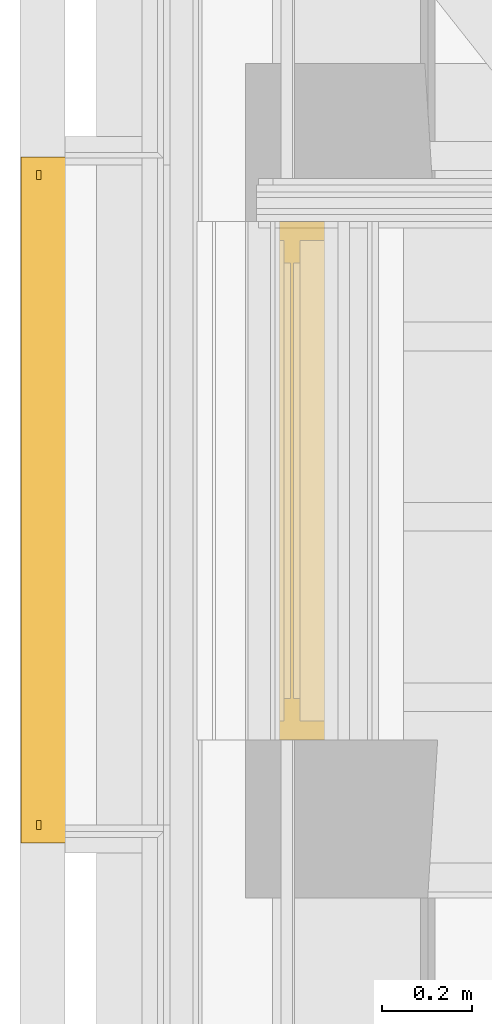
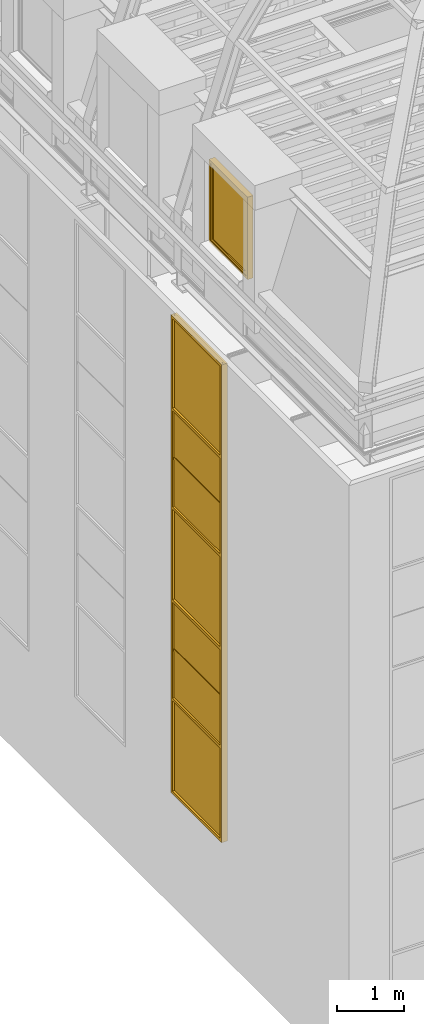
# One storey, part 110 of 183: 1 curtain wall, 1 window.
"""IFC2X3 building model written with IfcOpenShell, lengths in metres."""

from ifc_helpers import new_model, entity, si_unit, converted_unit, derived_unit, money_unit, direction, frame, origin_with_axes, place, context, subcontext, project, spatial, faceted_brep, material, type_object, element, save


model = new_model("IFC2X3")

# Units and contexts
model_context = context("Model", 3, precision=1e-05, world=origin_with_axes(), true_north=direction((0.0, 1.0)))
body_context = subcontext(model_context, "Body", "Model", "MODEL_VIEW", scale=1.0)
ifc_project = project(units=[si_unit("LENGTHUNIT", "METRE"), si_unit("AREAUNIT", "SQUARE_METRE"), si_unit("VOLUMEUNIT", "CUBIC_METRE"), si_unit("ABSORBEDDOSEUNIT", "GRAY"), si_unit("AMOUNTOFSUBSTANCEUNIT", "MOLE"), si_unit("DOSEEQUIVALENTUNIT", "SIEVERT"), si_unit("ELECTRICCAPACITANCEUNIT", "FARAD"), si_unit("ELECTRICCHARGEUNIT", "COULOMB"), si_unit("ELECTRICCONDUCTANCEUNIT", "SIEMENS"), si_unit("ELECTRICCURRENTUNIT", "AMPERE"), si_unit("ELECTRICRESISTANCEUNIT", "OHM"), si_unit("ELECTRICVOLTAGEUNIT", "VOLT"), si_unit("ENERGYUNIT", "JOULE"), si_unit("FORCEUNIT", "NEWTON"), si_unit("FREQUENCYUNIT", "HERTZ"), si_unit("ILLUMINANCEUNIT", "LUX"), si_unit("INDUCTANCEUNIT", "HENRY"), si_unit("LUMINOUSFLUXUNIT", "LUMEN"), si_unit("LUMINOUSINTENSITYUNIT", "CANDELA"), si_unit("MAGNETICFLUXDENSITYUNIT", "TESLA"), si_unit("MAGNETICFLUXUNIT", "WEBER"), si_unit("MASSUNIT", "GRAM"), converted_unit("PLANEANGLEUNIT", "degree", entity("IfcReal", 0.0174532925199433), si_unit("PLANEANGLEUNIT", "RADIAN"), dimensions=[0, 0, 0, 0, 0, 0, 0]), si_unit("POWERUNIT", "WATT"), si_unit("PRESSUREUNIT", "PASCAL"), si_unit("RADIOACTIVITYUNIT", "BECQUEREL"), si_unit("SOLIDANGLEUNIT", "STERADIAN"), si_unit("THERMODYNAMICTEMPERATUREUNIT", "KELVIN"), si_unit("TIMEUNIT", "SECOND"), derived_unit("ACCELERATIONUNIT", [(si_unit("LENGTHUNIT", "METRE"), 1), (si_unit("TIMEUNIT", "SECOND"), -2)]), derived_unit("ANGULARVELOCITYUNIT", [(converted_unit("PLANEANGLEUNIT", "degree", entity("IfcReal", 0.0174532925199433), si_unit("PLANEANGLEUNIT", "RADIAN"), dimensions=[0, 0, 0, 0, 0, 0, 0]), 1), (si_unit("TIMEUNIT", "SECOND"), -1)]), derived_unit("CURVATUREUNIT", [(converted_unit("PLANEANGLEUNIT", "degree", entity("IfcReal", 0.0174532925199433), si_unit("PLANEANGLEUNIT", "RADIAN"), dimensions=[0, 0, 0, 0, 0, 0, 0]), 1), (si_unit("LENGTHUNIT", "METRE"), -1)]), derived_unit("DYNAMICVISCOSITYUNIT", [(si_unit("PRESSUREUNIT", "PASCAL"), 1), (si_unit("TIMEUNIT", "SECOND"), 1)]), derived_unit("HEATFLUXDENSITYUNIT", [(si_unit("POWERUNIT", "WATT"), 1), (si_unit("LENGTHUNIT", "METRE"), -2)]), derived_unit("HEATINGVALUEUNIT", [(si_unit("ENERGYUNIT", "JOULE"), 1), (si_unit("MASSUNIT", "GRAM"), -1)]), derived_unit("INTEGERCOUNTRATEUNIT", [(si_unit("TIMEUNIT", "SECOND"), -1)]), derived_unit("IONCONCENTRATIONUNIT", [(si_unit("MASSUNIT", "GRAM"), 1), (si_unit("VOLUMEUNIT", "CUBIC_METRE"), -1)]), derived_unit("ISOTHERMALMOISTURECAPACITYUNIT", [(si_unit("VOLUMEUNIT", "CUBIC_METRE"), 1), (si_unit("MASSUNIT", "GRAM"), -1)]), derived_unit("KINEMATICVISCOSITYUNIT", [(si_unit("AREAUNIT", "SQUARE_METRE"), 1), (si_unit("TIMEUNIT", "SECOND"), -1)]), derived_unit("LINEARFORCEUNIT", [(si_unit("FORCEUNIT", "NEWTON"), 1), (si_unit("LENGTHUNIT", "METRE"), -1)]), derived_unit("LINEARMOMENTUNIT", [(si_unit("FORCEUNIT", "NEWTON"), 1), (si_unit("LENGTHUNIT", "METRE"), -1)]), derived_unit("LINEARSTIFFNESSUNIT", [(si_unit("FORCEUNIT", "NEWTON"), 1), (si_unit("LENGTHUNIT", "METRE"), -1)]), derived_unit("LINEARVELOCITYUNIT", [(si_unit("LENGTHUNIT", "METRE"), 1), (si_unit("TIMEUNIT", "SECOND"), -1)]), derived_unit("LUMINOUSINTENSITYDISTRIBUTIONUNIT", [(si_unit("LUMINOUSINTENSITYUNIT", "CANDELA"), 1), (si_unit("LUMINOUSFLUXUNIT", "LUMEN"), -1)]), derived_unit("MASSDENSITYUNIT", [(si_unit("MASSUNIT", "GRAM"), 1), (si_unit("VOLUMEUNIT", "CUBIC_METRE"), -1)]), derived_unit("MASSFLOWRATEUNIT", [(si_unit("MASSUNIT", "GRAM"), 1), (si_unit("TIMEUNIT", "SECOND"), -1)]), derived_unit("MASSPERLENGTHUNIT", [(si_unit("MASSUNIT", "GRAM"), 1), (si_unit("LENGTHUNIT", "METRE"), -1)]), derived_unit("MODULUSOFELASTICITYUNIT", [(si_unit("FORCEUNIT", "NEWTON"), 1), (si_unit("AREAUNIT", "SQUARE_METRE"), -1)]), derived_unit("MODULUSOFLINEARSUBGRADEREACTIONUNIT", [(si_unit("FORCEUNIT", "NEWTON"), 1), (si_unit("LENGTHUNIT", "METRE"), -2)]), derived_unit("MODULUSOFROTATIONALSUBGRADEREACTIONUNIT", [(si_unit("FORCEUNIT", "NEWTON"), 1), (si_unit("LENGTHUNIT", "METRE"), 1)]), derived_unit("MODULUSOFSUBGRADEREACTIONUNIT", [(si_unit("FORCEUNIT", "NEWTON"), 1), (si_unit("VOLUMEUNIT", "CUBIC_METRE"), -1)]), derived_unit("MOISTUREDIFFUSIVITYUNIT", [(si_unit("VOLUMEUNIT", "CUBIC_METRE"), 1), (si_unit("TIMEUNIT", "SECOND"), -1)]), derived_unit("MOLECULARWEIGHTUNIT", [(si_unit("MASSUNIT", "GRAM"), 1), (si_unit("AMOUNTOFSUBSTANCEUNIT", "MOLE"), -1)]), derived_unit("PLANARFORCEUNIT", [(si_unit("FORCEUNIT", "NEWTON"), 1), (si_unit("LENGTHUNIT", "METRE"), -2)]), derived_unit("ROTATIONALFREQUENCYUNIT", [(si_unit("TIMEUNIT", "SECOND"), -1)]), derived_unit("ROTATIONALMASSUNIT", [(si_unit("MASSUNIT", "GRAM"), 1), (si_unit("LENGTHUNIT", "METRE"), 2)]), derived_unit("ROTATIONALSTIFFNESSUNIT", [(si_unit("FORCEUNIT", "NEWTON"), 1), (si_unit("LENGTHUNIT", "METRE"), 1), (converted_unit("PLANEANGLEUNIT", "degree", entity("IfcReal", 0.0174532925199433), si_unit("PLANEANGLEUNIT", "RADIAN"), dimensions=[0, 0, 0, 0, 0, 0, 0]), -1)]), derived_unit("SECTIONAREAINTEGRALUNIT", [(si_unit("LENGTHUNIT", "METRE"), 5)]), derived_unit("SECTIONMODULUSUNIT", [(si_unit("LENGTHUNIT", "METRE"), 3)]), derived_unit("SHEARMODULUSUNIT", [(si_unit("FORCEUNIT", "NEWTON"), 1), (si_unit("AREAUNIT", "SQUARE_METRE"), -1)]), derived_unit("SOUNDPOWERUNIT", [(si_unit("ENERGYUNIT", "JOULE"), 1), (si_unit("TIMEUNIT", "SECOND"), -1)]), derived_unit("SPECIFICHEATCAPACITYUNIT", [(si_unit("FORCEUNIT", "NEWTON"), 1), (si_unit("MASSUNIT", "GRAM"), -1), (si_unit("THERMODYNAMICTEMPERATUREUNIT", "KELVIN"), -1)]), derived_unit("TEMPERATUREGRADIENTUNIT", [(si_unit("THERMODYNAMICTEMPERATUREUNIT", "KELVIN"), 1), (si_unit("LENGTHUNIT", "METRE"), -1)]), derived_unit("THERMALADMITTANCEUNIT", [(si_unit("POWERUNIT", "WATT"), 1), (si_unit("AREAUNIT", "SQUARE_METRE"), -1), (si_unit("THERMODYNAMICTEMPERATUREUNIT", "KELVIN"), -1)]), derived_unit("THERMALCONDUCTANCEUNIT", [(si_unit("POWERUNIT", "WATT"), 1), (si_unit("LENGTHUNIT", "METRE"), -1), (si_unit("THERMODYNAMICTEMPERATUREUNIT", "KELVIN"), -1)]), derived_unit("THERMALEXPANSIONCOEFFICIENTUNIT", [(si_unit("THERMODYNAMICTEMPERATUREUNIT", "KELVIN"), -1)]), derived_unit("THERMALRESISTANCEUNIT", [(si_unit("AREAUNIT", "SQUARE_METRE"), 1), (si_unit("POWERUNIT", "WATT"), -1)]), derived_unit("THERMALTRANSMITTANCEUNIT", [(si_unit("POWERUNIT", "WATT"), 1), (si_unit("AREAUNIT", "SQUARE_METRE"), -1), (si_unit("THERMODYNAMICTEMPERATUREUNIT", "KELVIN"), -1)]), derived_unit("TORQUEUNIT", [(si_unit("FORCEUNIT", "NEWTON"), 1), (si_unit("LENGTHUNIT", "METRE"), 1)]), derived_unit("VAPORPERMEABILITYUNIT", [(si_unit("MASSUNIT", "GRAM"), 1), (si_unit("TIMEUNIT", "SECOND"), -1)]), derived_unit("VOLUMETRICFLOWRATEUNIT", [(si_unit("VOLUMEUNIT", "CUBIC_METRE"), 1), (si_unit("TIMEUNIT", "SECOND"), -1)]), derived_unit("WARPINGCONSTANTUNIT", [(si_unit("LENGTHUNIT", "METRE"), 6)]), derived_unit("WARPINGMOMENTUNIT", [(si_unit("FORCEUNIT", "NEWTON"), 1), (si_unit("LENGTHUNIT", "METRE"), 2)]), money_unit("GBP")], contexts=[model_context])

# Site, building, storey
site_placement = place(None, origin_with_axes())
site = spatial("IfcSite", under=ifc_project, at=site_placement, Name="Site", CompositionType="ELEMENT")
building_placement = place(site_placement, origin_with_axes())
building = spatial("IfcBuilding", under=site, at=building_placement, Name="Building01", CompositionType="ELEMENT")
storey_placement = place(building_placement, frame((0.0, 0.0, 5.15), z_axis=(0.0, 0.0, 1.0), x_axis=(1.0, 0.0, 0.0)))
storey = spatial("IfcBuildingStorey", under=building, at=storey_placement, Name="1F", CompositionType="ELEMENT", Elevation=5.15)

# Curtain wall
ifc_material_1 = material(Name="A-CurtainWall_Frame")
curtain_wall_type = type_object("IfcCurtainWallType", Name="Pattern - Maximum Spacing", PredefinedType="NOTDEFINED")
curtain_wall_placement = place(storey_placement, frame((0.0, 0.0, -5.15), z_axis=(0.0, 0.0, 1.0), x_axis=(1.0, 0.0, 0.0)))
element("IfcCurtainWall", 1, at=curtain_wall_placement, inside=storey, type_object=curtain_wall_type, material=ifc_material_1, Name="15", ObjectType="Pattern - Maximum Spacing", context=body_context, shape_type="Brep", body=[
    faceted_brep([(0.047043, 5.28718, 7.729632), (0.037043, 5.28718, 7.729632), (0.037043, 3.82718, 7.729632), (0.047043, 3.82718, 7.729632), (0.047043, 5.28718, 6.045508), (0.037043, 5.28718, 6.045508), (0.047043, 3.82718, 6.045508), (0.037043, 3.82718, 6.045508)], [[[0, 1, 2, 3]], [[4, 5, 1, 0]], [[6, 7, 5, 4]], [[3, 2, 7, 6]], [[1, 5, 7, 2]], [[3, 6, 4, 0]]]),
    faceted_brep([(0.002043, 3.84718, 6.015508), (0.037043, 3.84718, 6.015508), (0.037043, 3.82718, 6.015508), (0.047043, 3.82718, 6.015508), (0.047043, 3.84718, 6.015508), (0.102043, 3.84718, 6.015508), (0.102043, 3.79718, 6.015508), (0.002043, 3.79718, 6.015508), (0.002043, 3.79718, 7.734632), (0.002043, 3.84718, 7.734632), (0.037043, 3.84718, 7.734632), (0.037043, 3.82718, 7.734632), (0.047043, 3.82718, 7.734632), (0.047043, 3.84718, 7.734632), (0.102043, 3.84718, 7.734632), (0.102043, 3.79718, 7.734632)], [[[0, 1, 2, 3, 4, 5, 6, 7]], [[7, 8, 9, 0]], [[0, 9, 10, 1]], [[1, 10, 11, 2]], [[2, 11, 12, 3]], [[3, 12, 13, 4]], [[4, 13, 14, 5]], [[5, 14, 15, 6]], [[6, 15, 8, 7]]]),
    faceted_brep([(0.002043, 5.26718, 6.065508), (0.037043, 5.26718, 6.065508), (0.037043, 5.26718, 6.045508), (0.047043, 5.26718, 6.045508), (0.047043, 5.26718, 6.065508), (0.102043, 5.26718, 6.065508), (0.102043, 5.26718, 6.015508), (0.002043, 5.26718, 6.015508), (0.002043, 3.84718, 6.015508), (0.002043, 3.84718, 6.065508), (0.037043, 3.84718, 6.065508), (0.037043, 3.84718, 6.045508), (0.047043, 3.84718, 6.045508), (0.047043, 3.84718, 6.065508), (0.102043, 3.84718, 6.065508), (0.102043, 3.84718, 6.015508)], [[[0, 1, 2, 3, 4, 5, 6, 7]], [[7, 8, 9, 0]], [[0, 9, 10, 1]], [[1, 10, 11, 2]], [[2, 11, 12, 3]], [[3, 12, 13, 4]], [[4, 13, 14, 5]], [[5, 14, 15, 6]], [[6, 15, 8, 7]], [[8, 15, 14, 13, 12, 11, 10, 9]]]),
    faceted_brep([(0.037043, 5.28718, 6.015508), (0.037043, 5.28718, 7.734632), (0.037043, 5.26718, 7.734632), (0.037043, 5.26718, 6.015508), (0.047043, 5.28718, 6.015508), (0.047043, 5.28718, 7.734632), (0.047043, 5.26718, 6.015508), (0.047043, 5.26718, 7.734632), (0.102043, 5.26718, 6.015508), (0.102043, 5.26718, 7.734632), (0.102043, 5.31718, 6.015508), (0.102043, 5.31718, 7.734632), (0.002043, 5.31718, 6.015508), (0.002043, 5.31718, 7.734632), (0.002043, 5.26718, 6.015508), (0.002043, 5.26718, 7.734632)], [[[0, 1, 2, 3]], [[4, 5, 1, 0]], [[6, 7, 5, 4]], [[8, 9, 7, 6]], [[10, 11, 9, 8]], [[12, 13, 11, 10]], [[14, 15, 13, 12]], [[3, 2, 15, 14]], [[14, 12, 10, 8, 6, 4, 0, 3]]]),
    faceted_brep([(0.047043, 3.84718, 7.739632), (0.037043, 3.84718, 7.739632), (0.037043, 3.84718, 7.759632), (0.002043, 3.84718, 7.759632), (0.002043, 3.84718, 7.709632), (0.037043, 3.84718, 7.709632), (0.037043, 3.84718, 7.729632), (0.047043, 3.84718, 7.729632), (0.047043, 3.84718, 7.709632), (0.102043, 3.84718, 7.709632), (0.102043, 3.84718, 7.759632), (0.047043, 3.84718, 7.759632), (0.047043, 5.26718, 7.759632), (0.047043, 5.26718, 7.739632), (0.037043, 5.26718, 7.739632), (0.037043, 5.26718, 7.759632), (0.002043, 5.26718, 7.759632), (0.002043, 5.26718, 7.709632), (0.037043, 5.26718, 7.709632), (0.047043, 5.26718, 7.729632), (0.047043, 5.26718, 7.709632), (0.037043, 5.26718, 7.729632), (0.102043, 5.26718, 7.759632), (0.102043, 5.26718, 7.709632)], [[[0, 1, 2, 3, 4, 5, 6, 7, 8, 9, 10, 11]], [[11, 12, 13, 0]], [[0, 13, 14, 1]], [[1, 14, 15, 2]], [[2, 15, 16, 3]], [[3, 16, 17, 4]], [[4, 17, 18, 5]], [[7, 19, 20, 8]], [[6, 21, 19, 7]], [[5, 18, 21, 6]], [[10, 22, 12, 11]], [[9, 23, 22, 10]], [[8, 20, 23, 9]], [[20, 19, 21, 18, 17, 16, 15, 14, 13, 12, 22, 23]]]),
    faceted_brep([(0.052043, 5.28718, 8.626522), (0.032043, 5.28718, 8.626522), (0.032043, 3.82718, 8.626522), (0.052043, 3.82718, 8.626522), (0.052043, 5.28718, 7.739632), (0.032043, 5.28718, 7.739632), (0.052043, 3.82718, 7.739632), (0.032043, 3.82718, 7.739632)], [[[0, 1, 2, 3]], [[4, 5, 1, 0]], [[6, 7, 5, 4]], [[3, 2, 7, 6]], [[1, 5, 7, 2]], [[3, 6, 4, 0]]]),
    faceted_brep([(0.102043, 3.79718, 8.631522), (0.102043, 3.79718, 7.734632), (0.102043, 3.84718, 7.734632), (0.102043, 3.84718, 8.631522), (0.002043, 3.79718, 8.631522), (0.002043, 3.79718, 7.734632), (0.002043, 3.84718, 8.631522), (0.002043, 3.84718, 7.734632), (0.037043, 3.84718, 8.631522), (0.037043, 3.84718, 7.734632), (0.037043, 3.82718, 8.631522), (0.037043, 3.82718, 7.734632), (0.047043, 3.82718, 8.631522), (0.047043, 3.82718, 7.734632), (0.047043, 3.84718, 8.631522), (0.047043, 3.84718, 7.734632)], [[[0, 1, 2, 3]], [[4, 5, 1, 0]], [[6, 7, 5, 4]], [[8, 9, 7, 6]], [[10, 11, 9, 8]], [[12, 13, 11, 10]], [[14, 15, 13, 12]], [[3, 2, 15, 14]]]),
    faceted_brep([(0.037043, 5.28718, 7.734632), (0.037043, 5.28718, 8.631522), (0.037043, 5.26718, 8.631522), (0.037043, 5.26718, 7.734632), (0.047043, 5.28718, 7.734632), (0.047043, 5.28718, 8.631522), (0.047043, 5.26718, 7.734632), (0.047043, 5.26718, 8.631522), (0.102043, 5.26718, 7.734632), (0.102043, 5.26718, 8.631522), (0.102043, 5.31718, 7.734632), (0.102043, 5.31718, 8.631522), (0.002043, 5.31718, 7.734632), (0.002043, 5.31718, 8.631522), (0.002043, 5.26718, 7.734632), (0.002043, 5.26718, 8.631522)], [[[0, 1, 2, 3]], [[4, 5, 1, 0]], [[6, 7, 5, 4]], [[8, 9, 7, 6]], [[10, 11, 9, 8]], [[12, 13, 11, 10]], [[14, 15, 13, 12]], [[3, 2, 15, 14]]]),
    faceted_brep([(0.064543, 3.84718, 8.636522), (0.054543, 3.84718, 8.636522), (0.054543, 3.84718, 8.656522), (0.019543, 3.84718, 8.656522), (0.019543, 3.84718, 8.606522), (0.054543, 3.84718, 8.606522), (0.054543, 3.84718, 8.626522), (0.064543, 3.84718, 8.626522), (0.064543, 3.84718, 8.606522), (0.119543, 3.84718, 8.606522), (0.119543, 3.84718, 8.656522), (0.064543, 3.84718, 8.656522), (0.064543, 5.26718, 8.656522), (0.064543, 5.26718, 8.636522), (0.054543, 5.26718, 8.636522), (0.054543, 5.26718, 8.656522), (0.019543, 5.26718, 8.656522), (0.019543, 5.26718, 8.606522), (0.054543, 5.26718, 8.606522), (0.064543, 5.26718, 8.626522), (0.064543, 5.26718, 8.606522), (0.054543, 5.26718, 8.626522), (0.119543, 5.26718, 8.656522), (0.119543, 5.26718, 8.606522)], [[[0, 1, 2, 3, 4, 5, 6, 7, 8, 9, 10, 11]], [[11, 12, 13, 0]], [[0, 13, 14, 1]], [[1, 14, 15, 2]], [[2, 15, 16, 3]], [[3, 16, 17, 4]], [[4, 17, 18, 5]], [[7, 19, 20, 8]], [[6, 21, 19, 7]], [[5, 18, 21, 6]], [[10, 22, 12, 11]], [[9, 23, 22, 10]], [[8, 20, 23, 9]], [[20, 19, 21, 18, 17, 16, 15, 14, 13, 12, 22, 23]]]),
    faceted_brep([(0.052043, 5.28718, 9.523411), (0.032043, 5.28718, 9.523411), (0.032043, 3.82718, 9.523411), (0.052043, 3.82718, 9.523411), (0.052043, 5.28718, 8.636522), (0.032043, 5.28718, 8.636522), (0.052043, 3.82718, 8.636522), (0.032043, 3.82718, 8.636522)], [[[0, 1, 2, 3]], [[4, 5, 1, 0]], [[6, 7, 5, 4]], [[3, 2, 7, 6]], [[1, 5, 7, 2]], [[3, 6, 4, 0]]]),
    faceted_brep([(0.102043, 3.79718, 9.528411), (0.102043, 3.79718, 8.631522), (0.102043, 3.84718, 8.631522), (0.102043, 3.84718, 9.528411), (0.002043, 3.79718, 9.528411), (0.002043, 3.79718, 8.631522), (0.002043, 3.84718, 9.528411), (0.002043, 3.84718, 8.631522), (0.037043, 3.84718, 9.528411), (0.037043, 3.84718, 8.631522), (0.037043, 3.82718, 9.528411), (0.037043, 3.82718, 8.631522), (0.047043, 3.82718, 9.528411), (0.047043, 3.82718, 8.631522), (0.047043, 3.84718, 9.528411), (0.047043, 3.84718, 8.631522)], [[[0, 1, 2, 3]], [[4, 5, 1, 0]], [[6, 7, 5, 4]], [[8, 9, 7, 6]], [[10, 11, 9, 8]], [[12, 13, 11, 10]], [[14, 15, 13, 12]], [[3, 2, 15, 14]]]),
    faceted_brep([(0.037043, 5.28718, 8.631522), (0.037043, 5.28718, 9.528411), (0.037043, 5.26718, 9.528411), (0.037043, 5.26718, 8.631522), (0.047043, 5.28718, 8.631522), (0.047043, 5.28718, 9.528411), (0.047043, 5.26718, 8.631522), (0.047043, 5.26718, 9.528411), (0.102043, 5.26718, 8.631522), (0.102043, 5.26718, 9.528411), (0.102043, 5.31718, 8.631522), (0.102043, 5.31718, 9.528411), (0.002043, 5.31718, 8.631522), (0.002043, 5.31718, 9.528411), (0.002043, 5.26718, 8.631522), (0.002043, 5.26718, 9.528411)], [[[0, 1, 2, 3]], [[4, 5, 1, 0]], [[6, 7, 5, 4]], [[8, 9, 7, 6]], [[10, 11, 9, 8]], [[12, 13, 11, 10]], [[14, 15, 13, 12]], [[3, 2, 15, 14]]]),
    faceted_brep([(0.047043, 3.84718, 9.533411), (0.037043, 3.84718, 9.533411), (0.037043, 3.84718, 9.553411), (0.002043, 3.84718, 9.553411), (0.002043, 3.84718, 9.503411), (0.037043, 3.84718, 9.503411), (0.037043, 3.84718, 9.523411), (0.047043, 3.84718, 9.523411), (0.047043, 3.84718, 9.503411), (0.102043, 3.84718, 9.503411), (0.102043, 3.84718, 9.553411), (0.047043, 3.84718, 9.553411), (0.047043, 5.26718, 9.553411), (0.047043, 5.26718, 9.533411), (0.037043, 5.26718, 9.533411), (0.037043, 5.26718, 9.553411), (0.002043, 5.26718, 9.553411), (0.002043, 5.26718, 9.503411), (0.037043, 5.26718, 9.503411), (0.047043, 5.26718, 9.523411), (0.047043, 5.26718, 9.503411), (0.037043, 5.26718, 9.523411), (0.102043, 5.26718, 9.553411), (0.102043, 5.26718, 9.503411)], [[[0, 1, 2, 3, 4, 5, 6, 7, 8, 9, 10, 11]], [[11, 12, 13, 0]], [[0, 13, 14, 1]], [[1, 14, 15, 2]], [[2, 15, 16, 3]], [[3, 16, 17, 4]], [[4, 17, 18, 5]], [[7, 19, 20, 8]], [[6, 21, 19, 7]], [[5, 18, 21, 6]], [[10, 22, 12, 11]], [[9, 23, 22, 10]], [[8, 20, 23, 9]], [[20, 19, 21, 18, 17, 16, 15, 14, 13, 12, 22, 23]]]),
    faceted_brep([(0.047043, 5.28718, 11.217536), (0.037043, 5.28718, 11.217536), (0.037043, 3.82718, 11.217536), (0.047043, 3.82718, 11.217536), (0.047043, 5.28718, 9.533411), (0.037043, 5.28718, 9.533411), (0.047043, 3.82718, 9.533411), (0.037043, 3.82718, 9.533411)], [[[0, 1, 2, 3]], [[4, 5, 1, 0]], [[6, 7, 5, 4]], [[3, 2, 7, 6]], [[1, 5, 7, 2]], [[3, 6, 4, 0]]]),
    faceted_brep([(0.102043, 3.79718, 11.222536), (0.102043, 3.79718, 9.528411), (0.102043, 3.84718, 9.528411), (0.102043, 3.84718, 11.222536), (0.002043, 3.79718, 11.222536), (0.002043, 3.79718, 9.528411), (0.002043, 3.84718, 11.222536), (0.002043, 3.84718, 9.528411), (0.037043, 3.84718, 11.222536), (0.037043, 3.84718, 9.528411), (0.037043, 3.82718, 11.222536), (0.037043, 3.82718, 9.528411), (0.047043, 3.82718, 11.222536), (0.047043, 3.82718, 9.528411), (0.047043, 3.84718, 11.222536), (0.047043, 3.84718, 9.528411)], [[[0, 1, 2, 3]], [[4, 5, 1, 0]], [[6, 7, 5, 4]], [[8, 9, 7, 6]], [[10, 11, 9, 8]], [[12, 13, 11, 10]], [[14, 15, 13, 12]], [[3, 2, 15, 14]]]),
    faceted_brep([(0.037043, 5.28718, 9.528411), (0.037043, 5.28718, 11.222536), (0.037043, 5.26718, 11.222536), (0.037043, 5.26718, 9.528411), (0.047043, 5.28718, 9.528411), (0.047043, 5.28718, 11.222536), (0.047043, 5.26718, 9.528411), (0.047043, 5.26718, 11.222536), (0.102043, 5.26718, 9.528411), (0.102043, 5.26718, 11.222536), (0.102043, 5.31718, 9.528411), (0.102043, 5.31718, 11.222536), (0.002043, 5.31718, 9.528411), (0.002043, 5.31718, 11.222536), (0.002043, 5.26718, 9.528411), (0.002043, 5.26718, 11.222536)], [[[0, 1, 2, 3]], [[4, 5, 1, 0]], [[6, 7, 5, 4]], [[8, 9, 7, 6]], [[10, 11, 9, 8]], [[12, 13, 11, 10]], [[14, 15, 13, 12]], [[3, 2, 15, 14]]]),
    faceted_brep([(0.047043, 3.84718, 11.227536), (0.037043, 3.84718, 11.227536), (0.037043, 3.84718, 11.247536), (0.002043, 3.84718, 11.247536), (0.002043, 3.84718, 11.197536), (0.037043, 3.84718, 11.197536), (0.037043, 3.84718, 11.217536), (0.047043, 3.84718, 11.217536), (0.047043, 3.84718, 11.197536), (0.102043, 3.84718, 11.197536), (0.102043, 3.84718, 11.247536), (0.047043, 3.84718, 11.247536), (0.047043, 5.26718, 11.247536), (0.047043, 5.26718, 11.227536), (0.037043, 5.26718, 11.227536), (0.037043, 5.26718, 11.247536), (0.002043, 5.26718, 11.247536), (0.002043, 5.26718, 11.197536), (0.037043, 5.26718, 11.197536), (0.047043, 5.26718, 11.217536), (0.047043, 5.26718, 11.197536), (0.037043, 5.26718, 11.217536), (0.102043, 5.26718, 11.247536), (0.102043, 5.26718, 11.197536)], [[[0, 1, 2, 3, 4, 5, 6, 7, 8, 9, 10, 11]], [[11, 12, 13, 0]], [[0, 13, 14, 1]], [[1, 14, 15, 2]], [[2, 15, 16, 3]], [[3, 16, 17, 4]], [[4, 17, 18, 5]], [[7, 19, 20, 8]], [[6, 21, 19, 7]], [[5, 18, 21, 6]], [[10, 22, 12, 11]], [[9, 23, 22, 10]], [[8, 20, 23, 9]], [[20, 19, 21, 18, 17, 16, 15, 14, 13, 12, 22, 23]]]),
    faceted_brep([(0.052043, 5.28718, 12.114425), (0.032043, 5.28718, 12.114425), (0.032043, 3.82718, 12.114425), (0.052043, 3.82718, 12.114425), (0.052043, 5.28718, 11.227536), (0.032043, 5.28718, 11.227536), (0.052043, 3.82718, 11.227536), (0.032043, 3.82718, 11.227536)], [[[0, 1, 2, 3]], [[4, 5, 1, 0]], [[6, 7, 5, 4]], [[3, 2, 7, 6]], [[1, 5, 7, 2]], [[3, 6, 4, 0]]]),
    faceted_brep([(0.102043, 3.79718, 12.119425), (0.102043, 3.79718, 11.222536), (0.102043, 3.84718, 11.222536), (0.102043, 3.84718, 12.119425), (0.002043, 3.79718, 12.119425), (0.002043, 3.79718, 11.222536), (0.002043, 3.84718, 12.119425), (0.002043, 3.84718, 11.222536), (0.037043, 3.84718, 12.119425), (0.037043, 3.84718, 11.222536), (0.037043, 3.82718, 12.119425), (0.037043, 3.82718, 11.222536), (0.047043, 3.82718, 12.119425), (0.047043, 3.82718, 11.222536), (0.047043, 3.84718, 12.119425), (0.047043, 3.84718, 11.222536)], [[[0, 1, 2, 3]], [[4, 5, 1, 0]], [[6, 7, 5, 4]], [[8, 9, 7, 6]], [[10, 11, 9, 8]], [[12, 13, 11, 10]], [[14, 15, 13, 12]], [[3, 2, 15, 14]]]),
    faceted_brep([(0.037043, 5.28718, 11.222536), (0.037043, 5.28718, 12.119425), (0.037043, 5.26718, 12.119425), (0.037043, 5.26718, 11.222536), (0.047043, 5.28718, 11.222536), (0.047043, 5.28718, 12.119425), (0.047043, 5.26718, 11.222536), (0.047043, 5.26718, 12.119425), (0.102043, 5.26718, 11.222536), (0.102043, 5.26718, 12.119425), (0.102043, 5.31718, 11.222536), (0.102043, 5.31718, 12.119425), (0.002043, 5.31718, 11.222536), (0.002043, 5.31718, 12.119425), (0.002043, 5.26718, 11.222536), (0.002043, 5.26718, 12.119425)], [[[0, 1, 2, 3]], [[4, 5, 1, 0]], [[6, 7, 5, 4]], [[8, 9, 7, 6]], [[10, 11, 9, 8]], [[12, 13, 11, 10]], [[14, 15, 13, 12]], [[3, 2, 15, 14]]]),
    faceted_brep([(0.064543, 3.84718, 12.124425), (0.054543, 3.84718, 12.124425), (0.054543, 3.84718, 12.144425), (0.019543, 3.84718, 12.144425), (0.019543, 3.84718, 12.094425), (0.054543, 3.84718, 12.094425), (0.054543, 3.84718, 12.114425), (0.064543, 3.84718, 12.114425), (0.064543, 3.84718, 12.094425), (0.119543, 3.84718, 12.094425), (0.119543, 3.84718, 12.144425), (0.064543, 3.84718, 12.144425), (0.064543, 5.26718, 12.144425), (0.064543, 5.26718, 12.124425), (0.054543, 5.26718, 12.124425), (0.054543, 5.26718, 12.144425), (0.019543, 5.26718, 12.144425), (0.019543, 5.26718, 12.094425), (0.054543, 5.26718, 12.094425), (0.064543, 5.26718, 12.114425), (0.064543, 5.26718, 12.094425), (0.054543, 5.26718, 12.114425), (0.119543, 5.26718, 12.144425), (0.119543, 5.26718, 12.094425)], [[[0, 1, 2, 3, 4, 5, 6, 7, 8, 9, 10, 11]], [[11, 12, 13, 0]], [[0, 13, 14, 1]], [[1, 14, 15, 2]], [[2, 15, 16, 3]], [[3, 16, 17, 4]], [[4, 17, 18, 5]], [[7, 19, 20, 8]], [[6, 21, 19, 7]], [[5, 18, 21, 6]], [[10, 22, 12, 11]], [[9, 23, 22, 10]], [[8, 20, 23, 9]], [[20, 19, 21, 18, 17, 16, 15, 14, 13, 12, 22, 23]]]),
    faceted_brep([(0.047043, 3.82718, 13.021314), (0.037043, 3.82718, 13.021314), (0.037043, 5.28718, 13.021314), (0.047043, 5.28718, 13.021314), (0.047043, 3.82718, 14.685508), (0.037043, 3.82718, 14.685508), (0.047043, 5.28718, 14.685508), (0.037043, 5.28718, 14.685508)], [[[0, 1, 2, 3]], [[4, 5, 1, 0]], [[6, 7, 5, 4]], [[3, 2, 7, 6]], [[1, 5, 7, 2]], [[3, 6, 4, 0]]]),
    faceted_brep([(0.037043, 5.28718, 14.715508), (0.047043, 5.28718, 14.715508), (0.047043, 5.26718, 14.715508), (0.102043, 5.26718, 14.715508), (0.102043, 5.31718, 14.715508), (0.002043, 5.31718, 14.715508), (0.002043, 5.26718, 14.715508), (0.037043, 5.26718, 14.715508), (0.037043, 5.26718, 13.016314), (0.037043, 5.28718, 13.016314), (0.047043, 5.28718, 13.016314), (0.047043, 5.26718, 13.016314), (0.102043, 5.26718, 13.016314), (0.102043, 5.31718, 13.016314), (0.002043, 5.31718, 13.016314), (0.002043, 5.26718, 13.016314)], [[[0, 1, 2, 3, 4, 5, 6, 7]], [[7, 8, 9, 0]], [[0, 9, 10, 1]], [[1, 10, 11, 2]], [[2, 11, 12, 3]], [[3, 12, 13, 4]], [[4, 13, 14, 5]], [[5, 14, 15, 6]], [[6, 15, 8, 7]]]),
    faceted_brep([(0.037043, 3.84718, 14.685508), (0.047043, 3.84718, 14.685508), (0.047043, 3.84718, 14.665508), (0.102043, 3.84718, 14.665508), (0.102043, 3.84718, 14.715508), (0.002043, 3.84718, 14.715508), (0.002043, 3.84718, 14.665508), (0.037043, 3.84718, 14.665508), (0.037043, 5.26718, 14.665508), (0.037043, 5.26718, 14.685508), (0.047043, 5.26718, 14.685508), (0.047043, 5.26718, 14.665508), (0.102043, 5.26718, 14.665508), (0.102043, 5.26718, 14.715508), (0.002043, 5.26718, 14.715508), (0.002043, 5.26718, 14.665508)], [[[0, 1, 2, 3, 4, 5, 6, 7]], [[7, 8, 9, 0]], [[0, 9, 10, 1]], [[1, 10, 11, 2]], [[2, 11, 12, 3]], [[3, 12, 13, 4]], [[4, 13, 14, 5]], [[5, 14, 15, 6]], [[6, 15, 8, 7]], [[8, 15, 14, 13, 12, 11, 10, 9]]]),
    faceted_brep([(0.002043, 3.84718, 14.715508), (0.002043, 3.84718, 13.016314), (0.002043, 3.79718, 13.016314), (0.002043, 3.79718, 14.715508), (0.037043, 3.84718, 14.715508), (0.037043, 3.84718, 13.016314), (0.037043, 3.82718, 14.715508), (0.037043, 3.82718, 13.016314), (0.047043, 3.82718, 14.715508), (0.047043, 3.82718, 13.016314), (0.047043, 3.84718, 14.715508), (0.047043, 3.84718, 13.016314), (0.102043, 3.84718, 14.715508), (0.102043, 3.84718, 13.016314), (0.102043, 3.79718, 14.715508), (0.102043, 3.79718, 13.016314)], [[[0, 1, 2, 3]], [[4, 5, 1, 0]], [[6, 7, 5, 4]], [[8, 9, 7, 6]], [[10, 11, 9, 8]], [[12, 13, 11, 10]], [[14, 15, 13, 12]], [[3, 2, 15, 14]], [[14, 12, 10, 8, 6, 4, 0, 3]]]),
    faceted_brep([(0.037043, 5.26718, 13.021314), (0.047043, 5.26718, 13.021314), (0.047043, 5.26718, 13.041314), (0.102043, 5.26718, 13.041314), (0.102043, 5.26718, 12.991314), (0.047043, 5.26718, 12.991314), (0.047043, 5.26718, 13.011314), (0.037043, 5.26718, 13.011314), (0.037043, 5.26718, 12.991314), (0.002043, 5.26718, 12.991314), (0.002043, 5.26718, 13.041314), (0.037043, 5.26718, 13.041314), (0.037043, 3.84718, 13.041314), (0.037043, 3.84718, 13.021314), (0.047043, 3.84718, 13.021314), (0.047043, 3.84718, 13.041314), (0.102043, 3.84718, 13.041314), (0.102043, 3.84718, 12.991314), (0.047043, 3.84718, 12.991314), (0.037043, 3.84718, 13.011314), (0.037043, 3.84718, 12.991314), (0.047043, 3.84718, 13.011314), (0.002043, 3.84718, 13.041314), (0.002043, 3.84718, 12.991314)], [[[0, 1, 2, 3, 4, 5, 6, 7, 8, 9, 10, 11]], [[11, 12, 13, 0]], [[0, 13, 14, 1]], [[1, 14, 15, 2]], [[2, 15, 16, 3]], [[3, 16, 17, 4]], [[4, 17, 18, 5]], [[7, 19, 20, 8]], [[6, 21, 19, 7]], [[5, 18, 21, 6]], [[10, 22, 12, 11]], [[9, 23, 22, 10]], [[8, 20, 23, 9]], [[20, 19, 21, 18, 17, 16, 15, 14, 13, 12, 22, 23]]]),
    faceted_brep([(0.052043, 5.28718, 13.011314), (0.032043, 5.28718, 13.011314), (0.032043, 3.82718, 13.011314), (0.052043, 3.82718, 13.011314), (0.052043, 5.28718, 12.124425), (0.032043, 5.28718, 12.124425), (0.052043, 3.82718, 12.124425), (0.032043, 3.82718, 12.124425)], [[[0, 1, 2, 3]], [[4, 5, 1, 0]], [[6, 7, 5, 4]], [[3, 2, 7, 6]], [[1, 5, 7, 2]], [[3, 6, 4, 0]]]),
    faceted_brep([(0.102043, 3.79718, 13.016314), (0.102043, 3.79718, 12.119425), (0.102043, 3.84718, 12.119425), (0.102043, 3.84718, 13.016314), (0.002043, 3.79718, 13.016314), (0.002043, 3.79718, 12.119425), (0.002043, 3.84718, 13.016314), (0.002043, 3.84718, 12.119425), (0.037043, 3.84718, 13.016314), (0.037043, 3.84718, 12.119425), (0.037043, 3.82718, 13.016314), (0.037043, 3.82718, 12.119425), (0.047043, 3.82718, 13.016314), (0.047043, 3.82718, 12.119425), (0.047043, 3.84718, 13.016314), (0.047043, 3.84718, 12.119425)], [[[0, 1, 2, 3]], [[4, 5, 1, 0]], [[6, 7, 5, 4]], [[8, 9, 7, 6]], [[10, 11, 9, 8]], [[12, 13, 11, 10]], [[14, 15, 13, 12]], [[3, 2, 15, 14]]]),
    faceted_brep([(0.037043, 5.28718, 12.119425), (0.037043, 5.28718, 13.016314), (0.037043, 5.26718, 13.016314), (0.037043, 5.26718, 12.119425), (0.047043, 5.28718, 12.119425), (0.047043, 5.28718, 13.016314), (0.047043, 5.26718, 12.119425), (0.047043, 5.26718, 13.016314), (0.102043, 5.26718, 12.119425), (0.102043, 5.26718, 13.016314), (0.102043, 5.31718, 12.119425), (0.102043, 5.31718, 13.016314), (0.002043, 5.31718, 12.119425), (0.002043, 5.31718, 13.016314), (0.002043, 5.26718, 12.119425), (0.002043, 5.26718, 13.016314)], [[[0, 1, 2, 3]], [[4, 5, 1, 0]], [[6, 7, 5, 4]], [[8, 9, 7, 6]], [[10, 11, 9, 8]], [[12, 13, 11, 10]], [[14, 15, 13, 12]], [[3, 2, 15, 14]]]),
])

# Space
space_placement = place(storey_placement, frame((12.175, 4.189428, 9.81), z_axis=(0.0, 0.0, 1.0), x_axis=(0.0, 1.0, 0.0)))
space = spatial("IfcSpace", under=storey, at=space_placement, Name="25", CompositionType="ELEMENT", InteriorOrExteriorSpace="NOTDEFINED")

# Window
ifc_material_2 = material(Name="A_BSUK_Windows")
window_style = type_object("IfcWindowStyle", Name="A-Awning", ConstructionType="NOTDEFINED", OperationType="USERDEFINED", ParameterTakesPrecedence=False, Sizeable=False)
window_placement = place(storey_placement, frame((0.549939, 4.024915, 10.78), z_axis=(0.0, 0.0, 1.0), x_axis=(0.0, -1.0, 0.0)))
element("IfcWindow", 2, at=window_placement, inside=space, type_object=window_style, material=ifc_material_2, Name="4.11", ObjectType="A-Awning", OverallHeight=1.50000000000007, OverallWidth=1.15000000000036, context=body_context, shape_type="Brep", body=[
    faceted_brep([(-1.108, 0.0254, 0.042), (-0.042, 0.0254, 0.042), (-0.042, 0.1254, 0.042), (-1.108, 0.1254, 0.042), (-1.108, 0.0254, 1.458), (-1.108, 0.1254, 1.458), (-0.042, 0.0254, 1.458), (-0.042, 0.1254, 1.458), (0.0, 0.0254, 0.0), (0.0, 0.0254, 1.5), (-1.15, 0.0254, 1.5), (-1.15, 0.0254, 0.0), (0.0, 0.1254, 1.5), (-1.15, 0.1254, 1.5), (-1.15, 0.1254, 0.0), (0.0, 0.1254, 0.0)], [[[0, 1, 2, 3]], [[4, 0, 3, 5]], [[6, 4, 5, 7]], [[8, 9, 10, 11], [4, 6, 1, 0]], [[1, 6, 7, 2]], [[12, 13, 10, 9]], [[14, 15, 8, 11]], [[13, 14, 11, 10]], [[13, 12, 15, 14], [2, 7, 5, 3]], [[15, 12, 9, 8]]]),
    faceted_brep([(-1.0572, 0.0354, 0.0928), (-0.0928, 0.0354, 0.0928), (-0.0928, 0.0704, 0.0928), (-1.0572, 0.0704, 0.0928), (-1.0572, 0.0354, 1.4072), (-1.0572, 0.0704, 1.4072), (-0.0928, 0.0354, 1.4072), (-0.0928, 0.0704, 1.4072), (-1.108, 0.0704, 1.458), (-0.042, 0.0704, 1.458), (-0.042, 0.0704, 0.042), (-1.108, 0.0704, 0.042), (-1.108, 0.0354, 1.458), (-0.042, 0.0354, 1.458), (-0.042, 0.0354, 0.042), (-1.108, 0.0354, 0.042)], [[[0, 1, 2, 3]], [[4, 0, 3, 5]], [[6, 4, 5, 7]], [[8, 9, 10, 11], [2, 7, 5, 3]], [[9, 8, 12, 13]], [[10, 9, 13, 14]], [[11, 10, 14, 15]], [[8, 11, 15, 12]], [[14, 13, 12, 15], [4, 6, 1, 0]], [[1, 6, 7, 2]]]),
    faceted_brep([(-0.0928, 0.049725, 0.0928), (-0.0928, 0.056075, 0.0928), (-0.0928, 0.056075, 1.4072), (-0.0928, 0.049725, 1.4072), (-1.0572, 0.049725, 1.4072), (-1.0572, 0.056075, 1.4072), (-1.0572, 0.056075, 0.0928), (-1.0572, 0.049725, 0.0928)], [[[0, 1, 2, 3]], [[4, 5, 6, 7]], [[3, 2, 5, 4]], [[3, 4, 7, 0]], [[7, 6, 1, 0]], [[1, 6, 5, 2]]]),
])

save(model, "model.ifc")
